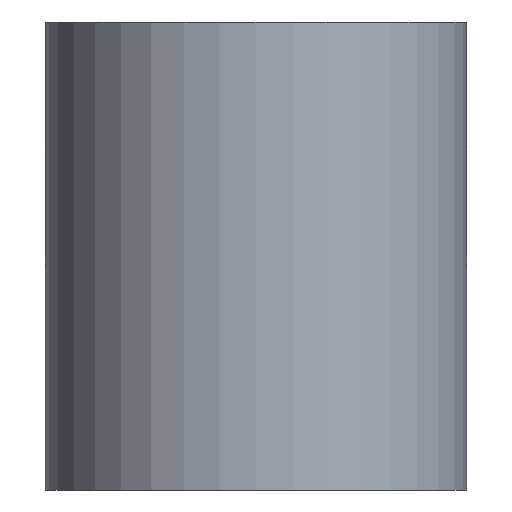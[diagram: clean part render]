
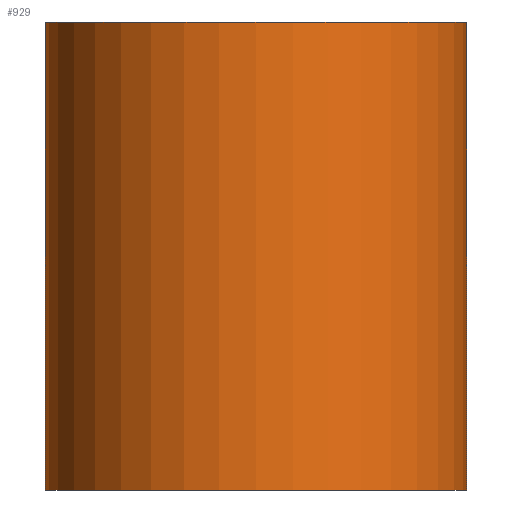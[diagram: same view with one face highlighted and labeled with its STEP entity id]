
A CAD part, left-side view. The second image highlights one B-rep face of the part: STEP entity #929.
In plain terms, the highlighted cylindrical face has radius 3.6 mm (diameter 7.2 mm), a partial arc.
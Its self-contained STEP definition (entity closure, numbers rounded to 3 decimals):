
#82=LINE('',#1613,#138);
#83=LINE('',#1614,#139);
#138=VECTOR('',#1324,1000.);
#139=VECTOR('',#1325,1000.);
#317=ORIENTED_EDGE('',*,*,#503,.F.);
#318=ORIENTED_EDGE('',*,*,#504,.F.);
#319=ORIENTED_EDGE('',*,*,#478,.T.);
#320=ORIENTED_EDGE('',*,*,#505,.T.);
#478=EDGE_CURVE('',#580,#581,#658,.T.);
#503=EDGE_CURVE('',#605,#606,#679,.T.);
#504=EDGE_CURVE('',#580,#605,#82,.T.);
#505=EDGE_CURVE('',#581,#606,#83,.T.);
#580=VERTEX_POINT('',#1550);
#581=VERTEX_POINT('',#1551);
#605=VERTEX_POINT('',#1611);
#606=VERTEX_POINT('',#1612);
#658=CIRCLE('',#1025,3.6);
#679=CIRCLE('',#1057,3.6);
#745=EDGE_LOOP('',(#317,#318,#319,#320));
#827=FACE_BOUND('',#745,.T.);
#880=CYLINDRICAL_SURFACE('',#1056,3.6);
#929=ADVANCED_FACE('',(#827),#880,.T.);
#1025=AXIS2_PLACEMENT_3D('',#1549,#1254,#1255);
#1056=AXIS2_PLACEMENT_3D('',#1609,#1320,#1321);
#1057=AXIS2_PLACEMENT_3D('',#1610,#1322,#1323);
#1254=DIRECTION('',(0.,0.,-1.));
#1255=DIRECTION('',(1.,0.,0.));
#1320=DIRECTION('',(0.,0.,-1.));
#1321=DIRECTION('',(-1.,0.,0.));
#1322=DIRECTION('',(0.,0.,-1.));
#1323=DIRECTION('',(1.,0.,0.));
#1324=DIRECTION('',(0.,0.,-1.));
#1325=DIRECTION('',(0.,0.,-1.));
#1549=CARTESIAN_POINT('',(-8.,0.,8.));
#1550=CARTESIAN_POINT('',(-8.,-3.6,8.));
#1551=CARTESIAN_POINT('',(-8.,3.6,8.));
#1609=CARTESIAN_POINT('',(-8.,0.,8.));
#1610=CARTESIAN_POINT('',(-8.,0.,0.));
#1611=CARTESIAN_POINT('',(-8.,-3.6,0.));
#1612=CARTESIAN_POINT('',(-8.,3.6,0.));
#1613=CARTESIAN_POINT('',(-8.,-3.6,8.));
#1614=CARTESIAN_POINT('',(-8.,3.6,8.));
